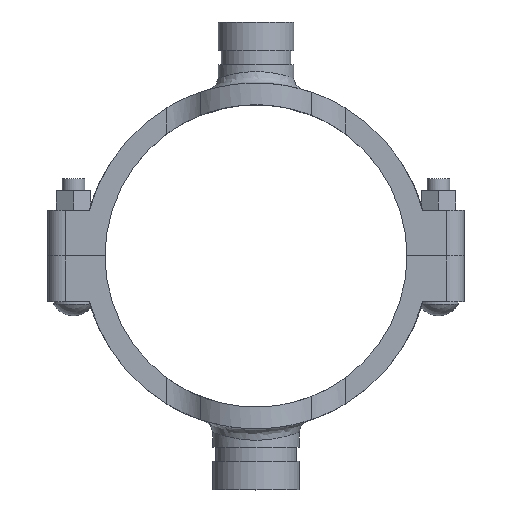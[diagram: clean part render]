
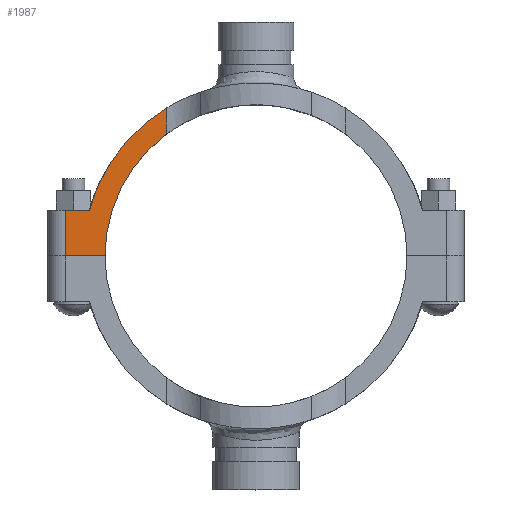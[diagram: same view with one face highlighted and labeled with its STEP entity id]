
A CAD part, top view. The second image highlights one B-rep face of the part: STEP entity #1987.
In plain terms, the highlighted planar face has unit normal (0, 0, 1) as drawn and (0, 0, -1) by its records, which use the part's own axes.
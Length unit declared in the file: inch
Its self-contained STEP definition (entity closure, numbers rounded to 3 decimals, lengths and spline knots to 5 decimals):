
#185=FACE_OUTER_BOUND('',#303,.T.);
#303=EDGE_LOOP('',(#1447,#1448,#1449,#1450,#1451,#1452));
#449=LINE('',#3585,#599);
#450=LINE('',#3587,#600);
#451=LINE('',#3589,#601);
#452=LINE('',#3590,#602);
#599=VECTOR('',#2575,0.3937);
#600=VECTOR('',#2576,0.3937);
#601=VECTOR('',#2577,0.3937);
#602=VECTOR('',#2578,0.3937);
#693=CIRCLE('',#2142,3.79);
#721=CIRCLE('',#2200,3.3125);
#806=VERTEX_POINT('',#3210);
#807=VERTEX_POINT('',#3212);
#858=VERTEX_POINT('',#3506);
#859=VERTEX_POINT('',#3519);
#868=VERTEX_POINT('',#3586);
#869=VERTEX_POINT('',#3588);
#1003=EDGE_CURVE('',#807,#806,#693,.T.);
#1077=EDGE_CURVE('',#859,#858,#721,.T.);
#1089=EDGE_CURVE('',#858,#807,#449,.T.);
#1090=EDGE_CURVE('',#806,#868,#450,.T.);
#1091=EDGE_CURVE('',#869,#868,#451,.T.);
#1092=EDGE_CURVE('',#869,#859,#452,.T.);
#1447=ORIENTED_EDGE('',*,*,#1077,.T.);
#1448=ORIENTED_EDGE('',*,*,#1089,.T.);
#1449=ORIENTED_EDGE('',*,*,#1003,.T.);
#1450=ORIENTED_EDGE('',*,*,#1090,.T.);
#1451=ORIENTED_EDGE('',*,*,#1091,.F.);
#1452=ORIENTED_EDGE('',*,*,#1092,.T.);
#1802=PLANE('',#2204);
#1987=ADVANCED_FACE('',(#185),#1802,.T.);
#2142=AXIS2_PLACEMENT_3D('',#3213,#2404,#2405);
#2200=AXIS2_PLACEMENT_3D('',#3520,#2559,#2560);
#2204=AXIS2_PLACEMENT_3D('',#3584,#2573,#2574);
#2404=DIRECTION('center_axis',(0.,0.,-1.));
#2405=DIRECTION('ref_axis',(0.965,0.264,0.));
#2559=DIRECTION('center_axis',(0.,0.,1.));
#2560=DIRECTION('ref_axis',(-1.,0.,0.));
#2573=DIRECTION('center_axis',(0.,0.,-1.));
#2574=DIRECTION('ref_axis',(-1.,0.,0.));
#2575=DIRECTION('',(0.,1.,0.));
#2576=DIRECTION('',(1.,0.,0.));
#2577=DIRECTION('',(0.,1.,0.));
#2578=DIRECTION('',(-1.,0.,0.));
#3210=CARTESIAN_POINT('',(3.65569,1.,-0.75));
#3212=CARTESIAN_POINT('',(1.95656,3.24592,-0.75));
#3213=CARTESIAN_POINT('Origin',(0.,0.,-0.75));
#3506=CARTESIAN_POINT('',(1.95656,2.67293,-0.75));
#3519=CARTESIAN_POINT('',(3.3125,0.,-0.75));
#3520=CARTESIAN_POINT('Origin',(0.,0.,-0.75));
#3584=CARTESIAN_POINT('Origin',(4.185,0.,-0.75));
#3585=CARTESIAN_POINT('',(1.95656,0.,-0.75));
#3586=CARTESIAN_POINT('',(4.185,1.,-0.75));
#3587=CARTESIAN_POINT('',(3.92035,1.,-0.75));
#3588=CARTESIAN_POINT('',(4.185,0.,-0.75));
#3589=CARTESIAN_POINT('',(4.185,0.,-0.75));
#3590=CARTESIAN_POINT('',(4.185,0.,-0.75));
